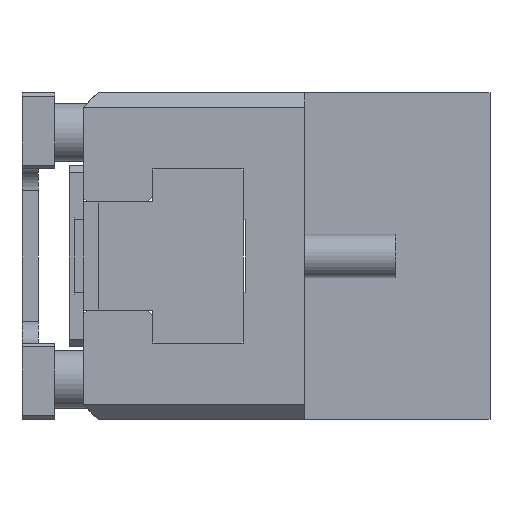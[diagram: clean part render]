
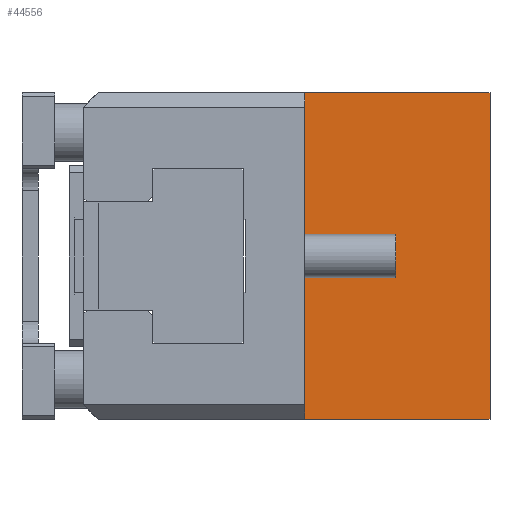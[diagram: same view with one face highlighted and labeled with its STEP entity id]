
A CAD part, left-side view. The second image highlights one B-rep face of the part: STEP entity #44556.
In plain terms, the highlighted planar face has unit normal (-1, 0, 0).
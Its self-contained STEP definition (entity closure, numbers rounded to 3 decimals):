
#35 = DIRECTION ( 'NONE',  ( 0., -1., 0. ) ) ;
#1691 = VECTOR ( 'NONE', #35, 1000. ) ;
#2001 = PLANE ( 'NONE',  #26357 ) ;
#4331 = CARTESIAN_POINT ( 'NONE',  ( -78., 51., -45. ) ) ;
#5643 = LINE ( 'NONE', #46532, #48145 ) ;
#7859 = EDGE_CURVE ( 'NONE', #11591, #16778, #5643, .T. ) ;
#8741 = VECTOR ( 'NONE', #12780, 1000. ) ;
#10069 = DIRECTION ( 'NONE',  ( 0., 0., -1. ) ) ;
#10975 = LINE ( 'NONE', #11864, #40273 ) ;
#11591 = VERTEX_POINT ( 'NONE', #21617 ) ;
#11864 = CARTESIAN_POINT ( 'NONE',  ( -78., 51., -45. ) ) ;
#12620 = VERTEX_POINT ( 'NONE', #50896 ) ;
#12780 = DIRECTION ( 'NONE',  ( 0., 0., 1. ) ) ;
#16778 = VERTEX_POINT ( 'NONE', #4331 ) ;
#18477 = EDGE_CURVE ( 'NONE', #51527, #12620, #49962, .T. ) ;
#19169 = ORIENTED_EDGE ( 'NONE', *, *, #18477, .T. ) ;
#20667 = CARTESIAN_POINT ( 'NONE',  ( -78., 0., 45. ) ) ;
#21617 = CARTESIAN_POINT ( 'NONE',  ( -78., 51., 45. ) ) ;
#21652 = FACE_OUTER_BOUND ( 'NONE', #47514, .T. ) ;
#22971 = LINE ( 'NONE', #40038, #1691 ) ;
#23283 = DIRECTION ( 'NONE',  ( 0., 0., -1. ) ) ;
#26357 = AXIS2_PLACEMENT_3D ( 'NONE', #29922, #33922, #10069 ) ;
#29922 = CARTESIAN_POINT ( 'NONE',  ( -78., 51., 45. ) ) ;
#33597 = ORIENTED_EDGE ( 'NONE', *, *, #43508, .F. ) ;
#33922 = DIRECTION ( 'NONE',  ( 1., 0., 0. ) ) ;
#36169 = ORIENTED_EDGE ( 'NONE', *, *, #7859, .T. ) ;
#40038 = CARTESIAN_POINT ( 'NONE',  ( -78., 51., 45. ) ) ;
#40273 = VECTOR ( 'NONE', #51861, 1000. ) ;
#43368 = ORIENTED_EDGE ( 'NONE', *, *, #46399, .T. ) ;
#43508 = EDGE_CURVE ( 'NONE', #11591, #12620, #22971, .T. ) ;
#44556 = ADVANCED_FACE ( 'NONE', ( #21652 ), #2001, .F. ) ;
#46253 = CARTESIAN_POINT ( 'NONE',  ( -78., 0., -45. ) ) ;
#46399 = EDGE_CURVE ( 'NONE', #16778, #51527, #10975, .T. ) ;
#46532 = CARTESIAN_POINT ( 'NONE',  ( -78., 51., 45. ) ) ;
#47514 = EDGE_LOOP ( 'NONE', ( #19169, #33597, #36169, #43368 ) ) ;
#48145 = VECTOR ( 'NONE', #23283, 1000. ) ;
#49962 = LINE ( 'NONE', #20667, #8741 ) ;
#50896 = CARTESIAN_POINT ( 'NONE',  ( -78., 0., 45. ) ) ;
#51527 = VERTEX_POINT ( 'NONE', #46253 ) ;
#51861 = DIRECTION ( 'NONE',  ( 0., -1., 0. ) ) ;
